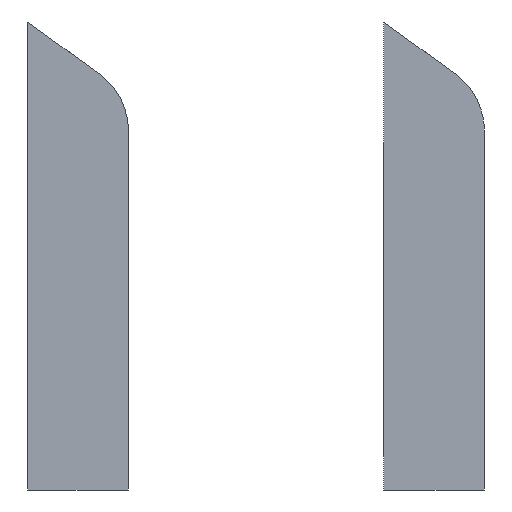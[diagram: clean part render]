
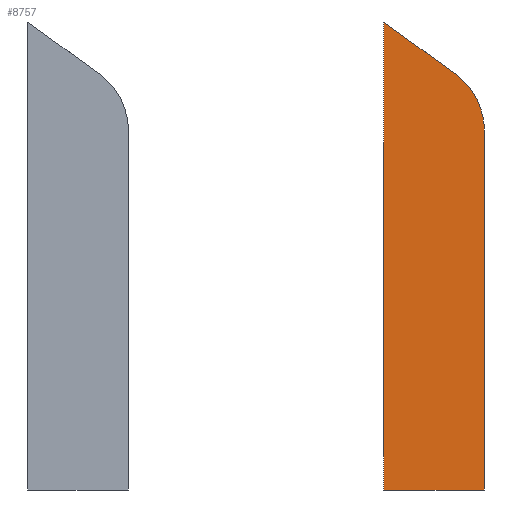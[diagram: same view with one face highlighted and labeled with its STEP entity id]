
A CAD part, left-side view. The second image highlights one B-rep face of the part: STEP entity #8757.
In plain terms, the highlighted planar face has unit normal (-1, 0, 0).
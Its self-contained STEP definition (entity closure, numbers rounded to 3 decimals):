
#123=CIRCLE('',#9201,13.);
#139=CIRCLE('',#9243,14.5);
#303=FACE_OUTER_BOUND('',#746,.T.);
#746=EDGE_LOOP('',(#6016,#6017,#6018,#6019,#6020,#6021));
#1226=LINE('',#12265,#2396);
#1287=LINE('',#12428,#2457);
#1305=LINE('',#12478,#2475);
#1306=LINE('',#12480,#2476);
#2396=VECTOR('',#9888,10.);
#2457=VECTOR('',#10029,10.);
#2475=VECTOR('',#10069,10.);
#2476=VECTOR('',#10070,10.);
#3556=VERTEX_POINT('',#12262);
#3557=VERTEX_POINT('',#12264);
#3569=VERTEX_POINT('',#12297);
#3611=VERTEX_POINT('',#12426);
#3624=VERTEX_POINT('',#12477);
#3625=VERTEX_POINT('',#12479);
#4451=EDGE_CURVE('',#3556,#3557,#1226,.T.);
#4467=EDGE_CURVE('',#3557,#3569,#123,.T.);
#4530=EDGE_CURVE('',#3611,#3556,#1287,.T.);
#4552=EDGE_CURVE('',#3624,#3611,#1305,.T.);
#4553=EDGE_CURVE('',#3625,#3624,#1306,.F.);
#4554=EDGE_CURVE('',#3569,#3625,#139,.T.);
#6016=ORIENTED_EDGE('',*,*,#4467,.F.);
#6017=ORIENTED_EDGE('',*,*,#4451,.F.);
#6018=ORIENTED_EDGE('',*,*,#4530,.F.);
#6019=ORIENTED_EDGE('',*,*,#4552,.F.);
#6020=ORIENTED_EDGE('',*,*,#4553,.F.);
#6021=ORIENTED_EDGE('',*,*,#4554,.F.);
#8369=PLANE('',#9242);
#8757=ADVANCED_FACE('',(#303),#8369,.F.);
#9201=AXIS2_PLACEMENT_3D('',#12298,#9918,#9919);
#9242=AXIS2_PLACEMENT_3D('',#12476,#10067,#10068);
#9243=AXIS2_PLACEMENT_3D('',#12481,#10071,#10072);
#9888=DIRECTION('',(0.,-0.811,-0.585));
#9918=DIRECTION('center_axis',(1.,0.,0.));
#9919=DIRECTION('ref_axis',(0.,-0.809,0.587));
#10029=DIRECTION('',(0.,0.,1.));
#10067=DIRECTION('center_axis',(1.,0.,0.));
#10068=DIRECTION('ref_axis',(0.,1.,0.));
#10069=DIRECTION('',(0.,1.,0.));
#10070=DIRECTION('',(0.,0.,1.));
#10071=DIRECTION('center_axis',(1.,0.,0.));
#10072=DIRECTION('ref_axis',(0.,-0.89,0.455));
#12262=CARTESIAN_POINT('',(-121.,44.,88.084));
#12264=CARTESIAN_POINT('',(-121.,30.46,78.305));
#12265=CARTESIAN_POINT('',(-121.,16.047,67.896));
#12297=CARTESIAN_POINT('',(-121.,25.691,71.731));
#12298=CARTESIAN_POINT('Origin',(-121.,38.071,67.766));
#12426=CARTESIAN_POINT('',(-121.,44.,0.));
#12428=CARTESIAN_POINT('',(-121.,44.,42.5));
#12476=CARTESIAN_POINT('Origin',(-121.,39.5,42.5));
#12477=CARTESIAN_POINT('',(-121.,25.,0.));
#12478=CARTESIAN_POINT('',(-121.,30.5,0.));
#12479=CARTESIAN_POINT('',(-121.,25.,67.309));
#12480=CARTESIAN_POINT('',(-121.,25.,42.5));
#12481=CARTESIAN_POINT('Origin',(-121.,39.5,67.309));
